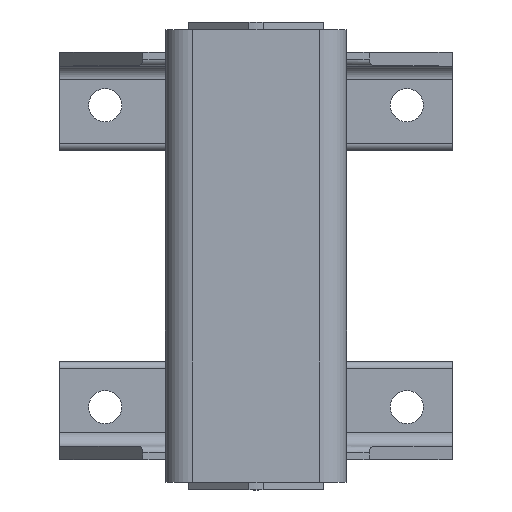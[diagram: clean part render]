
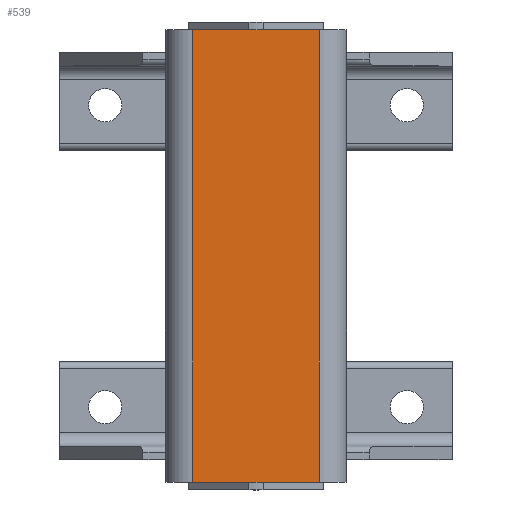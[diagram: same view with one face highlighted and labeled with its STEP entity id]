
A CAD part, top view. The second image highlights one B-rep face of the part: STEP entity #539.
In plain terms, the highlighted planar face has unit normal (0, 0, 1).
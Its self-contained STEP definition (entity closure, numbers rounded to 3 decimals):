
#481=CARTESIAN_POINT('',(42.,300.0,60.));
#482=VERTEX_POINT('',#481);
#490=CARTESIAN_POINT('',(42.,0.0,60.));
#491=VERTEX_POINT('',#490);
#492=CARTESIAN_POINT('',(42.,0.0,60.));
#493=DIRECTION('',(0.0,1.0,0.0));
#494=VECTOR('',#493,300.0);
#495=LINE('',#492,#494);
#496=EDGE_CURVE('',#491,#482,#495,.T.);
#509=CARTESIAN_POINT('',(42.,0.0,60.));
#510=DIRECTION('',(0.0,0.0,1.0));
#511=DIRECTION('',(1.0,0.0,0.0));
#512=AXIS2_PLACEMENT_3D('',#509,#510,#511);
#513=PLANE('',#512);
#514=CARTESIAN_POINT('',(-42.,300.0,60.));
#515=VERTEX_POINT('',#514);
#516=CARTESIAN_POINT('',(42.,300.0,60.));
#517=DIRECTION('',(-1.0,0.0,0.0));
#518=VECTOR('',#517,84.);
#519=LINE('',#516,#518);
#520=EDGE_CURVE('',#482,#515,#519,.T.);
#521=ORIENTED_EDGE('',*,*,#520,.T.);
#522=CARTESIAN_POINT('',(-42.,0.0,60.));
#523=VERTEX_POINT('',#522);
#524=CARTESIAN_POINT('',(-42.,0.0,60.));
#525=DIRECTION('',(0.0,1.0,0.0));
#526=VECTOR('',#525,300.0);
#527=LINE('',#524,#526);
#528=EDGE_CURVE('',#523,#515,#527,.T.);
#529=ORIENTED_EDGE('',*,*,#528,.F.);
#530=CARTESIAN_POINT('',(-42.,0.0,60.));
#531=DIRECTION('',(1.0,0.0,0.0));
#532=VECTOR('',#531,84.);
#533=LINE('',#530,#532);
#534=EDGE_CURVE('',#523,#491,#533,.T.);
#535=ORIENTED_EDGE('',*,*,#534,.T.);
#536=ORIENTED_EDGE('',*,*,#496,.T.);
#537=EDGE_LOOP('',(#521,#529,#535,#536));
#538=FACE_OUTER_BOUND('',#537,.T.);
#539=ADVANCED_FACE('',(#538),#513,.T.);
